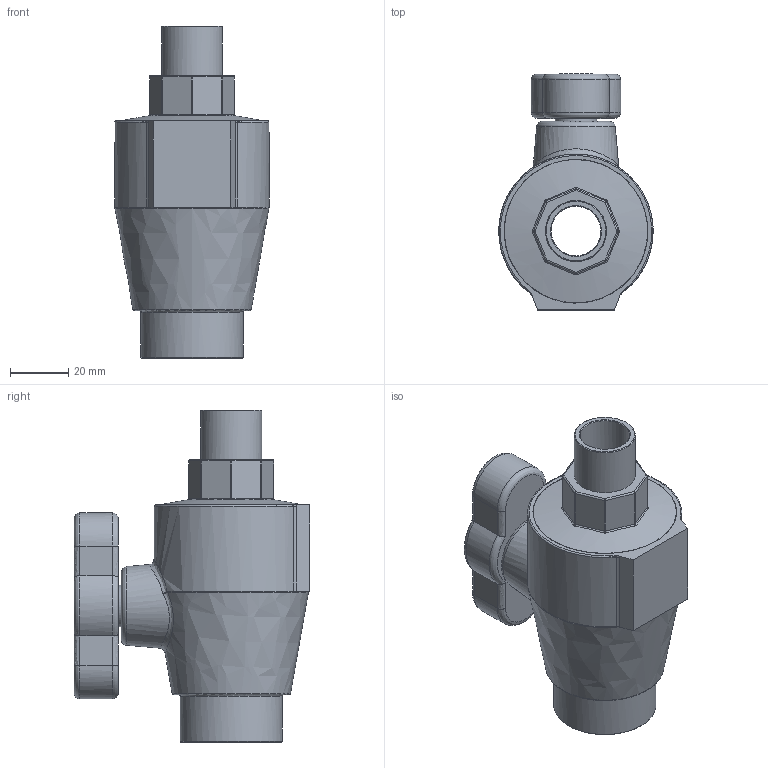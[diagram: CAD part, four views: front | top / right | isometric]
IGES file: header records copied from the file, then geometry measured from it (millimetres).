
Global section: file name: 03703020S00005_03703020SF0005; native system: Autodesk Inventor 2019; preprocessor: unknown; author: Lenora; date: 20220418.172800; units: millimetre
Bounding box: 52.99 x 81 x 114 mm (x, y, z)
Volume: 158301.2 mm3; surface area: 30210 mm2
Topology: 1 solids, 1 shells, 117 faces, 275 edges, 164 vertices
Faces by surface type: bspline 117
